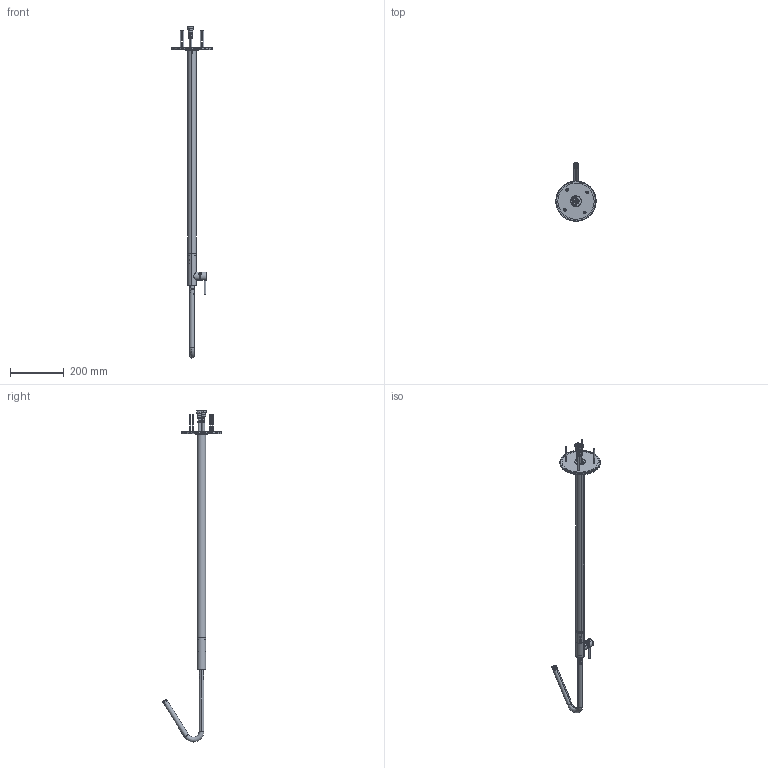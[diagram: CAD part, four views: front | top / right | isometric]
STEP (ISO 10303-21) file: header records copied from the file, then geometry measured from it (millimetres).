
FILE_DESCRIPTION (( 'STEP AP203' ), '1' );
FILE_NAME ('MME19.STEP', '2025-02-07T08:20:19', ( '' ), ( '' ), 'SwSTEP 2.0', 'SolidWorks 2024', '' );
FILE_SCHEMA (( 'CONFIG_CONTROL_DESIGN' ));
Length unit declared in the file: millimetre
Products named in the file (29): C21.0648.00.1; C21.2132.00.0; C11.14.0014; C24.0029.00.1; C11.10.0041; C13.00.0043; C24.0093.00.2; C16.10.0021; C24.1948.00.0; C24.0120.00.1; C25.2131.00.0; C24.0372.00.1; C12.00.0004; C11.14.0008; C21.0649.00.0; C24.2075.00.0; C47.00.0062.00; AS028_00; MME19; C10.00.0013; C12.00.0054; C11.14.0019; C24.0370.00.3; C19.11.0029.43; C24.0699.00.0; C25.1949.00.0; C25.1279.00.1; C47.00.0023.01; C24.0119.00.2
Assembly tree (35 placements, depth 4):
  MME19
    C24.1948.00.0
    AS028_00
      C11.14.0014
      C24.0093.00.2
      C19.11.0029.43
        C24.0370.00.3
        C24.2075.00.0
      C24.0029.00.1
      C24.0372.00.1
      C24.0119.00.2
      C24.0120.00.1
      C10.00.0013
      C24.0699.00.0
      C21.0648.00.1
      C21.0649.00.0  x2
      C12.00.0054  x2
      C47.00.0023.01
      C11.14.0019
      C12.00.0004
      C13.00.0043
    C11.10.0041  x4
    C25.1279.00.1
    C25.1949.00.0
    C11.14.0008
    C16.10.0021  x2
    C47.00.0062.00  x2
    C25.2131.00.0
    C21.2132.00.0
Bounding box: 149.79 x 220.11 x 1237.12 mm (x, y, z)
Volume: 597789 mm3; surface area: 400872.1 mm2
Topology: 32 solids, 42 shells, 1567 faces, 4086 edges, 2613 vertices
Faces by surface type: cylinder 554, plane 553, cone 266, torus 100, bspline 94
Entity records: 50510 total; most frequent: CARTESIAN_POINT 14737, DIRECTION 6785, ORIENTED_EDGE 6646, EDGE_CURVE 3553, AXIS2_PLACEMENT_3D 2684, VERTEX_POINT 2303, EDGE_LOOP 1486, VECTOR 1417
